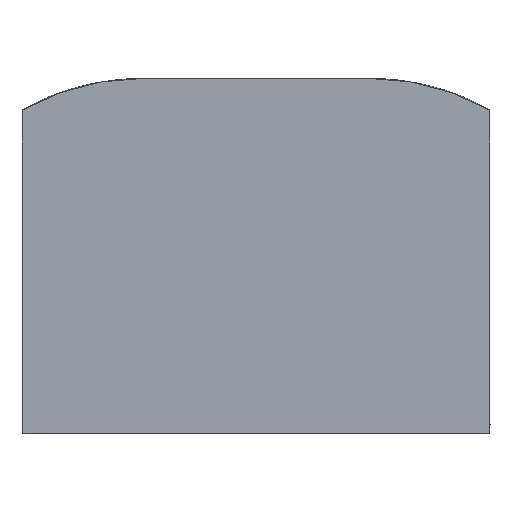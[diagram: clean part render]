
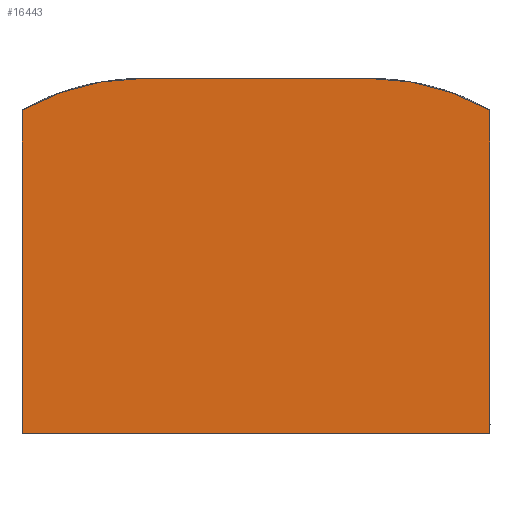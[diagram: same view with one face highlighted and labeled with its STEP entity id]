
A CAD part, front view. The second image highlights one B-rep face of the part: STEP entity #16443.
In plain terms, the highlighted planar face has unit normal (0, -1, 0) as drawn and (-1, 0, 0) by its records, which use the part's own axes.
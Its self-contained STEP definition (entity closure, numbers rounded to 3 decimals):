
#570=LINE('',#29061,#2476);
#571=LINE('',#29064,#2477);
#572=LINE('',#29066,#2478);
#573=LINE('',#29070,#2479);
#2476=VECTOR('',#24605,1000.);
#2477=VECTOR('',#24606,1000.);
#2478=VECTOR('',#24607,1000.);
#2479=VECTOR('',#24610,1000.);
#4384=ORIENTED_EDGE('',*,*,#9463,.T.);
#4385=ORIENTED_EDGE('',*,*,#9464,.T.);
#4386=ORIENTED_EDGE('',*,*,#9465,.F.);
#4387=ORIENTED_EDGE('',*,*,#9466,.T.);
#4388=ORIENTED_EDGE('',*,*,#9467,.T.);
#4389=ORIENTED_EDGE('',*,*,#9468,.T.);
#9463=EDGE_CURVE('',#12002,#12003,#570,.T.);
#9464=EDGE_CURVE('',#12003,#12004,#571,.T.);
#9465=EDGE_CURVE('',#12005,#12004,#572,.T.);
#9466=EDGE_CURVE('',#12005,#12006,#13680,.T.);
#9467=EDGE_CURVE('',#12006,#12007,#573,.T.);
#9468=EDGE_CURVE('',#12007,#12002,#13681,.T.);
#12002=VERTEX_POINT('',#29062);
#12003=VERTEX_POINT('',#29063);
#12004=VERTEX_POINT('',#29065);
#12005=VERTEX_POINT('',#29067);
#12006=VERTEX_POINT('',#29069);
#12007=VERTEX_POINT('',#29071);
#13680=CIRCLE('',#23319,15.);
#13681=CIRCLE('',#23320,15.);
#13996=EDGE_LOOP('',(#4384,#4385,#4386,#4387,#4388,#4389));
#14888=FACE_BOUND('',#13996,.T.);
#15780=PLANE('',#23318);
#16443=ADVANCED_FACE('',(#14888),#15780,.T.);
#23318=AXIS2_PLACEMENT_3D('',#29060,#24603,#24604);
#23319=AXIS2_PLACEMENT_3D('',#29068,#24608,#24609);
#23320=AXIS2_PLACEMENT_3D('',#29072,#24611,#24612);
#24603=DIRECTION('',(-1.,0.,0.));
#24604=DIRECTION('',(0.,1.,0.));
#24605=DIRECTION('',(0.,0.,-1.));
#24606=DIRECTION('',(0.,-1.,0.));
#24607=DIRECTION('',(0.,0.,-1.));
#24608=DIRECTION('',(-1.,0.,0.));
#24609=DIRECTION('',(0.,0.993,-0.122));
#24610=DIRECTION('',(0.,1.,0.));
#24611=DIRECTION('',(-1.,0.,0.));
#24612=DIRECTION('',(0.,0.993,-0.122));
#29060=CARTESIAN_POINT('',(0.,10.9,21.4));
#29061=CARTESIAN_POINT('',(0.,28.6,-12.86));
#29062=CARTESIAN_POINT('',(0.,28.6,19.776));
#29063=CARTESIAN_POINT('',(0.,28.6,0.));
#29064=CARTESIAN_POINT('',(0.,-8.495,0.));
#29065=CARTESIAN_POINT('',(0.,0.,0.));
#29066=CARTESIAN_POINT('',(0.,0.,-9.349));
#29067=CARTESIAN_POINT('',(0.,0.,19.776));
#29068=CARTESIAN_POINT('',(0.,7.35,6.7));
#29069=CARTESIAN_POINT('',(0.,7.35,21.7));
#29070=CARTESIAN_POINT('',(0.,-5.831,21.7));
#29071=CARTESIAN_POINT('',(0.,21.25,21.7));
#29072=CARTESIAN_POINT('',(0.,21.25,6.7));
